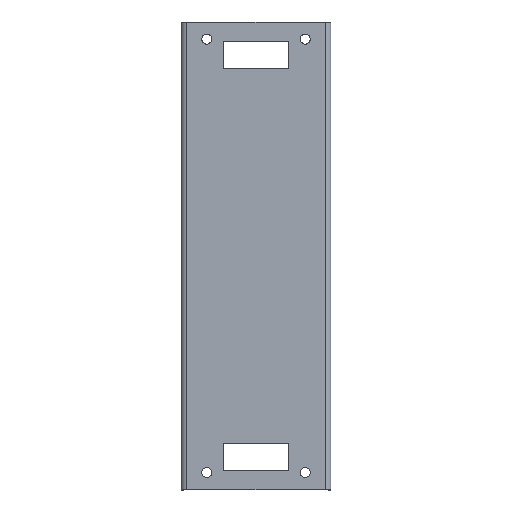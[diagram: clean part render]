
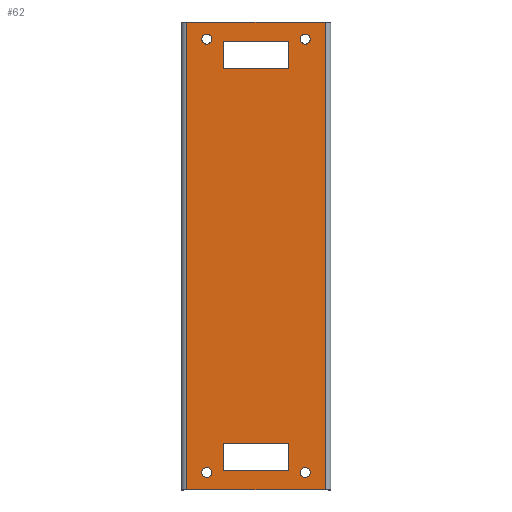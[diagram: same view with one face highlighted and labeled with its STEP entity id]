
A CAD part, top view. The second image highlights one B-rep face of the part: STEP entity #62.
In plain terms, the highlighted planar face has unit normal (0, 0, 1).
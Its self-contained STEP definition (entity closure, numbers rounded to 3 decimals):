
#62=ADVANCED_FACE('',(#531,#533,#535,#537,#539,#541,#543),#545,.T.);
#531=FACE_BOUND('',#532,.T.);
#532=EDGE_LOOP('',(#947,#948,#949,#950));
#533=FACE_BOUND('',#534,.T.);
#534=EDGE_LOOP('',(#951,#952,#953,#954));
#535=FACE_BOUND('',#536,.T.);
#536=EDGE_LOOP('',(#955));
#537=FACE_BOUND('',#538,.T.);
#538=EDGE_LOOP('',(#956));
#539=FACE_BOUND('',#540,.T.);
#540=EDGE_LOOP('',(#957));
#541=FACE_BOUND('',#542,.T.);
#542=EDGE_LOOP('',(#958));
#543=FACE_BOUND('',#544,.T.);
#544=EDGE_LOOP('',(#959,#960,#961,#962));
#545=PLANE('',#546);
#546=AXIS2_PLACEMENT_3D('',#547,#548,#549);
#547=CARTESIAN_POINT('',(0.,0.,0.8));
#548=DIRECTION('',(0.,0.,1.));
#549=DIRECTION('',(0.,1.,0.));
#947=ORIENTED_EDGE('',*,*,#1191,.T.);
#948=ORIENTED_EDGE('',*,*,#1192,.T.);
#949=ORIENTED_EDGE('',*,*,#1193,.T.);
#950=ORIENTED_EDGE('',*,*,#1194,.T.);
#951=ORIENTED_EDGE('',*,*,#1195,.T.);
#952=ORIENTED_EDGE('',*,*,#1196,.T.);
#953=ORIENTED_EDGE('',*,*,#1197,.T.);
#954=ORIENTED_EDGE('',*,*,#1198,.T.);
#955=ORIENTED_EDGE('',*,*,#1199,.T.);
#956=ORIENTED_EDGE('',*,*,#1200,.T.);
#957=ORIENTED_EDGE('',*,*,#1201,.T.);
#958=ORIENTED_EDGE('',*,*,#1202,.T.);
#959=ORIENTED_EDGE('',*,*,#1203,.T.);
#960=ORIENTED_EDGE('',*,*,#1204,.T.);
#961=ORIENTED_EDGE('',*,*,#1205,.T.);
#962=ORIENTED_EDGE('',*,*,#1206,.T.);
#1191=EDGE_CURVE('',#1329,#1330,#1331,.T.);
#1192=EDGE_CURVE('',#1330,#1332,#1333,.T.);
#1193=EDGE_CURVE('',#1332,#1334,#1335,.T.);
#1194=EDGE_CURVE('',#1334,#1329,#1336,.T.);
#1195=EDGE_CURVE('',#1337,#1338,#1339,.F.);
#1196=EDGE_CURVE('',#1338,#1340,#1341,.F.);
#1197=EDGE_CURVE('',#1340,#1342,#1343,.F.);
#1198=EDGE_CURVE('',#1342,#1337,#1344,.F.);
#1199=EDGE_CURVE('',#1345,#1345,#1346,.F.);
#1200=EDGE_CURVE('',#1347,#1347,#1348,.F.);
#1201=EDGE_CURVE('',#1349,#1349,#1350,.F.);
#1202=EDGE_CURVE('',#1351,#1351,#1352,.F.);
#1203=EDGE_CURVE('',#1353,#1354,#1355,.F.);
#1204=EDGE_CURVE('',#1354,#1356,#1357,.F.);
#1205=EDGE_CURVE('',#1356,#1358,#1359,.F.);
#1206=EDGE_CURVE('',#1358,#1353,#1360,.F.);
#1329=VERTEX_POINT('',#1569);
#1330=VERTEX_POINT('',#1570);
#1331=LINE('',#1571,#1572);
#1332=VERTEX_POINT('',#1574);
#1333=LINE('',#1575,#1576);
#1334=VERTEX_POINT('',#1578);
#1335=LINE('',#1579,#1580);
#1336=LINE('',#1582,#1583);
#1337=VERTEX_POINT('',#1585);
#1338=VERTEX_POINT('',#1586);
#1339=LINE('',#1587,#1588);
#1340=VERTEX_POINT('',#1590);
#1341=LINE('',#1591,#1592);
#1342=VERTEX_POINT('',#1594);
#1343=LINE('',#1595,#1596);
#1344=LINE('',#1598,#1599);
#1345=VERTEX_POINT('',#1601);
#1346=CIRCLE('',#1602,1.6);
#1347=VERTEX_POINT('',#1606);
#1348=CIRCLE('',#1607,1.6);
#1349=VERTEX_POINT('',#1611);
#1350=CIRCLE('',#1612,1.6);
#1351=VERTEX_POINT('',#1616);
#1352=CIRCLE('',#1617,1.6);
#1353=VERTEX_POINT('',#1621);
#1354=VERTEX_POINT('',#1622);
#1355=LINE('',#1623,#1624);
#1356=VERTEX_POINT('',#1626);
#1357=LINE('',#1627,#1628);
#1358=VERTEX_POINT('',#1630);
#1359=LINE('',#1631,#1632);
#1360=LINE('',#1634,#1635);
#1569=CARTESIAN_POINT('',(-22.2,75.,0.8));
#1570=CARTESIAN_POINT('',(-22.2,-75.,0.8));
#1571=CARTESIAN_POINT('',(-22.2,75.,0.8));
#1572=VECTOR('',#1573,1.);
#1573=DIRECTION('',(0.,-1.,0.));
#1574=CARTESIAN_POINT('',(22.2,-75.,0.8));
#1575=CARTESIAN_POINT('',(-22.2,-75.,0.8));
#1576=VECTOR('',#1577,1.);
#1577=DIRECTION('',(1.,0.,0.));
#1578=CARTESIAN_POINT('',(22.2,75.,0.8));
#1579=CARTESIAN_POINT('',(22.2,-75.,0.8));
#1580=VECTOR('',#1581,1.);
#1581=DIRECTION('',(0.,1.,0.));
#1582=CARTESIAN_POINT('',(22.2,75.,0.8));
#1583=VECTOR('',#1584,1.);
#1584=DIRECTION('',(-1.,0.,0.));
#1585=CARTESIAN_POINT('',(-10.5,-68.9,0.8));
#1586=CARTESIAN_POINT('',(-10.5,-60.1,0.8));
#1587=CARTESIAN_POINT('',(-10.5,-60.1,0.8));
#1588=VECTOR('',#1589,1.);
#1589=DIRECTION('',(0.,-1.,0.));
#1590=CARTESIAN_POINT('',(10.5,-60.1,0.8));
#1591=CARTESIAN_POINT('',(10.5,-60.1,0.8));
#1592=VECTOR('',#1593,1.);
#1593=DIRECTION('',(-1.,0.,0.));
#1594=CARTESIAN_POINT('',(10.5,-68.9,0.8));
#1595=CARTESIAN_POINT('',(10.5,-68.9,0.8));
#1596=VECTOR('',#1597,1.);
#1597=DIRECTION('',(0.,1.,0.));
#1598=CARTESIAN_POINT('',(-10.5,-68.9,0.8));
#1599=VECTOR('',#1600,1.);
#1600=DIRECTION('',(1.,0.,0.));
#1601=CARTESIAN_POINT('',(15.8,71.1,0.8));
#1602=AXIS2_PLACEMENT_3D('',#1603,#1604,#1605);
#1603=CARTESIAN_POINT('',(15.8,69.5,0.8));
#1604=DIRECTION('',(0.,0.,1.));
#1605=DIRECTION('',(0.,1.,0.));
#1606=CARTESIAN_POINT('',(-15.8,71.1,0.8));
#1607=AXIS2_PLACEMENT_3D('',#1608,#1609,#1610);
#1608=CARTESIAN_POINT('',(-15.8,69.5,0.8));
#1609=DIRECTION('',(0.,0.,1.));
#1610=DIRECTION('',(0.,1.,0.));
#1611=CARTESIAN_POINT('',(15.8,-67.9,0.8));
#1612=AXIS2_PLACEMENT_3D('',#1613,#1614,#1615);
#1613=CARTESIAN_POINT('',(15.8,-69.5,0.8));
#1614=DIRECTION('',(0.,0.,1.));
#1615=DIRECTION('',(0.,1.,0.));
#1616=CARTESIAN_POINT('',(-15.8,-67.9,0.8));
#1617=AXIS2_PLACEMENT_3D('',#1618,#1619,#1620);
#1618=CARTESIAN_POINT('',(-15.8,-69.5,0.8));
#1619=DIRECTION('',(0.,0.,1.));
#1620=DIRECTION('',(0.,1.,0.));
#1621=CARTESIAN_POINT('',(-10.5,60.1,0.8));
#1622=CARTESIAN_POINT('',(-10.5,68.9,0.8));
#1623=CARTESIAN_POINT('',(-10.5,68.9,0.8));
#1624=VECTOR('',#1625,1.);
#1625=DIRECTION('',(0.,-1.,0.));
#1626=CARTESIAN_POINT('',(10.5,68.9,0.8));
#1627=CARTESIAN_POINT('',(10.5,68.9,0.8));
#1628=VECTOR('',#1629,1.);
#1629=DIRECTION('',(-1.,0.,0.));
#1630=CARTESIAN_POINT('',(10.5,60.1,0.8));
#1631=CARTESIAN_POINT('',(10.5,60.1,0.8));
#1632=VECTOR('',#1633,1.);
#1633=DIRECTION('',(0.,1.,0.));
#1634=CARTESIAN_POINT('',(-10.5,60.1,0.8));
#1635=VECTOR('',#1636,1.);
#1636=DIRECTION('',(1.,0.,0.));
